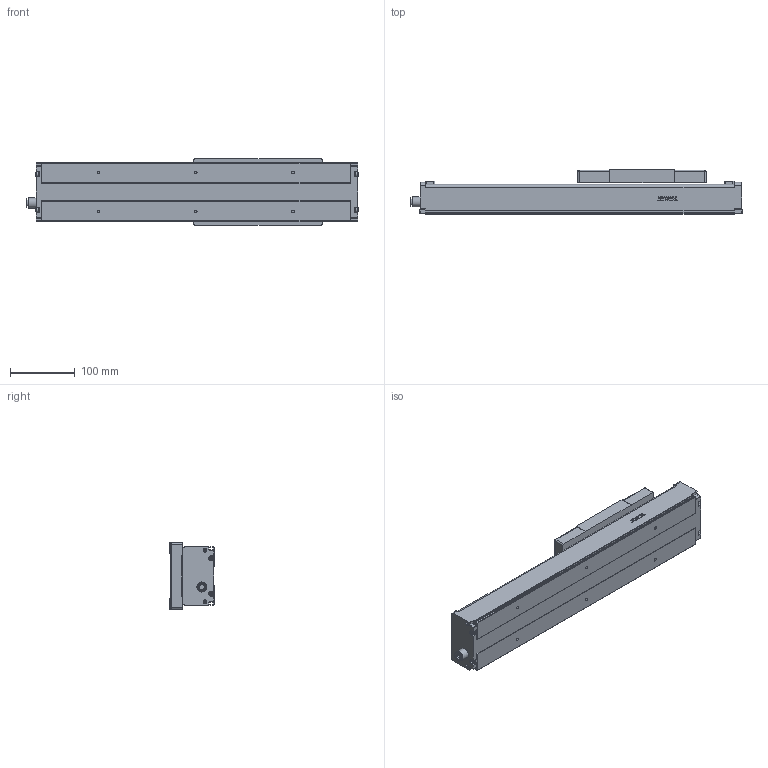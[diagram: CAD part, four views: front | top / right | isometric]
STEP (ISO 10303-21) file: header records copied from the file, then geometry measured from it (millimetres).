
FILE_DESCRIPTION(/* description */ (''),/* implementation_level */ '2;1');
FILE_NAME(/* name */ 'D:\混合母檔20191031\混和母檔\混和母檔\bin\Debug\Download\3D\KS90-5C-200AF0\KS90-5C-200AF0.stp',/* time_stamp */ '2019-11-04T14:33:17+08:00',/* author */ ('user'),/* organization */ (''),/* preprocessor_version */ 'ST-DEVELOPER v16.13',/* originating_system */ 'Autodesk Inventor 2018',/* authorisation */ '');
FILE_SCHEMA (('AUTOMOTIVE_DESIGN { 1 0 10303 214 3 1 1 }'));
Length unit declared in the file: millimetre
Products named in the file (3): KS90-5C-200AF0; KS90-F0; KS90-SL
Assembly tree (2 placements, depth 2):
  KS90-5C-200AF0
    KS90-F0
    KS90-SL
Bounding box: 511.6 x 68.5 x 102.4 mm (x, y, z)
Volume: 999615.5 mm3; surface area: 350512.3 mm2
Topology: 3 solids, 13 shells, 1013 faces, 2774 edges, 1830 vertices
Faces by surface type: plane 563, cylinder 142, bspline 136, cone 120, torus 48, sphere 4
Full cylindrical faces by diameter (mm): 2.113 x2, 2.459 x8, 2.5 x4, 2.693 x8, 3 x12, 3.242 x6, 3.5 x8, 4 x7, 4.134 x6, 4.5 x8, 4.917 x4, 5.5 x12, 6 x3, 7 x4, 8 x2, 10.437 x1, 11 x1, 11.5 x1, 14 x1, 15.538 x1, 28 x1, 30 x1
Entity records: 37725 total; most frequent: CARTESIAN_POINT 14028, ORIENTED_EDGE 4998, DIRECTION 4424, EDGE_CURVE 2499, VERTEX_POINT 1721, LINE 1498, VECTOR 1498, AXIS2_PLACEMENT_3D 1463
